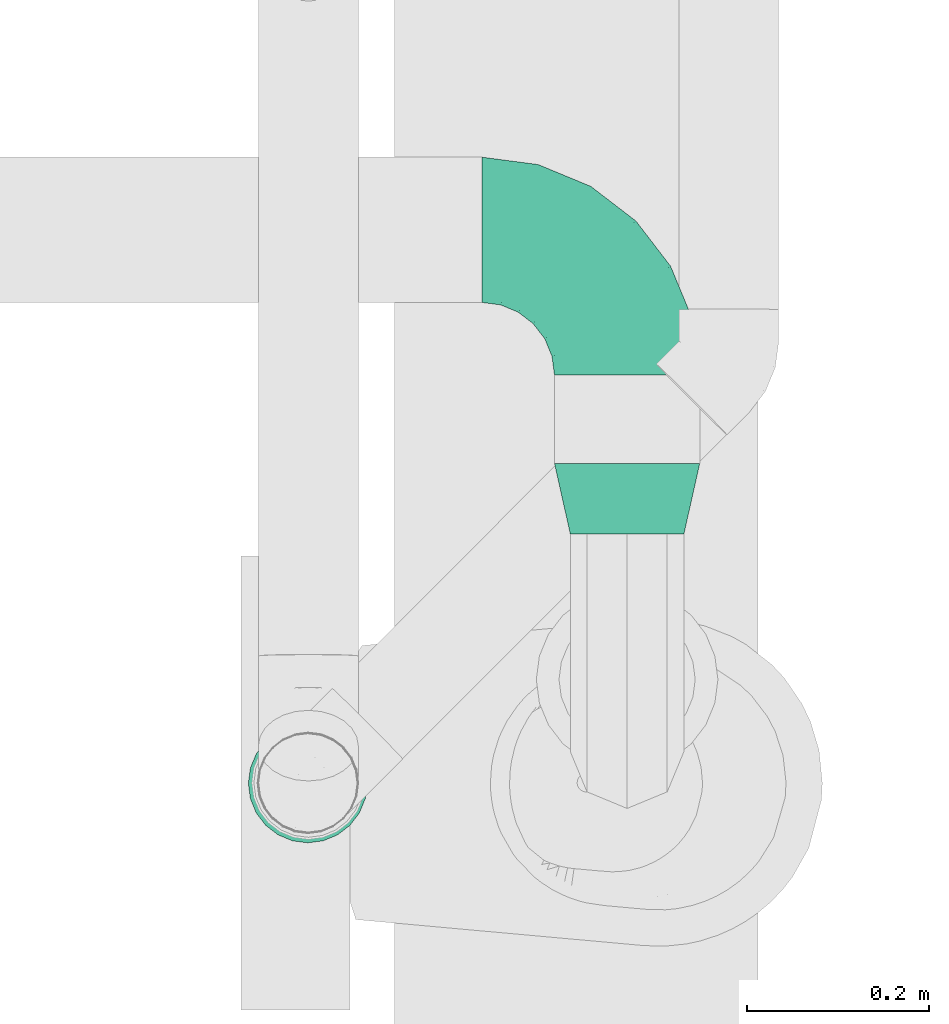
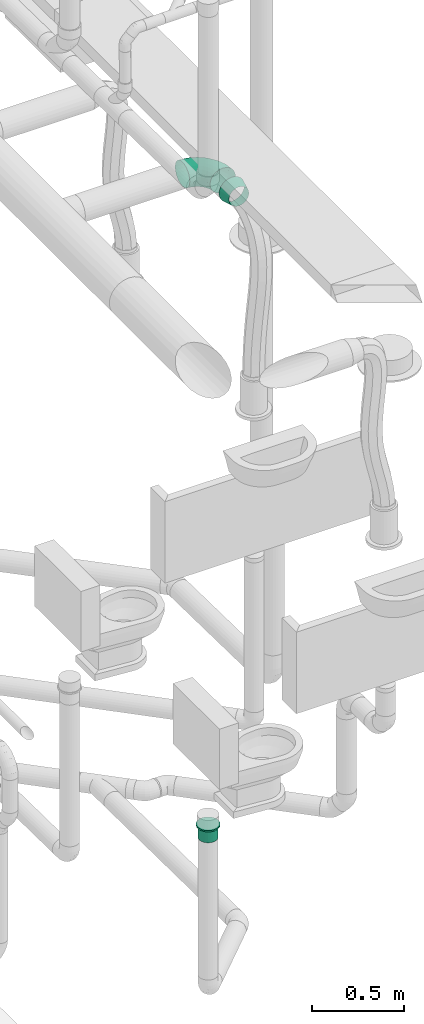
# One storey, part 121 of 374: 3 flow fittings.
"""IFC2X3 building model written with IfcOpenShell, lengths in metres."""

from ifc_helpers import new_model, si_unit, direction, origin, place, context, subcontext, project, spatial, open_shell, surface_model, source, transform, mapped, element, save


model = new_model("IFC2X3")

# Units and contexts
model_context = context("Model", 3, precision=1e-05, world=origin(), true_north=direction((-0.4480736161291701, 0.8939966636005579)))
body_context = subcontext(model_context, "Body", "Model", "MODEL_VIEW")
ifc_project = project(units=[si_unit("LENGTHUNIT", "METRE"), si_unit("AREAUNIT", "SQUARE_METRE"), si_unit("VOLUMEUNIT", "CUBIC_METRE"), si_unit("PLANEANGLEUNIT", "RADIAN"), si_unit("THERMODYNAMICTEMPERATUREUNIT", "KELVIN"), si_unit("MASSUNIT", "GRAM", prefix="KILO"), si_unit("TIMEUNIT", "SECOND")], contexts=[model_context])

# Site, building, storey
site_placement = place(None, origin())
site = spatial("IfcSite", under=ifc_project, at=site_placement, Name="Site 1", CompositionType="ELEMENT")
building_placement = place(site_placement, origin())
building = spatial("IfcBuilding", under=site, at=building_placement, Name="Undefined", CompositionType="ELEMENT")
storey_placement = place(building_placement, origin())
storey = spatial("IfcBuildingStorey", under=building, at=storey_placement, Name="Rez de chauss\x8ee", CompositionType="ELEMENT", Elevation=0.0)

# Flow fittings
shared_shape_1 = source(origin(), body_context, "Body", "SurfaceModel", [
    surface_model("IfcFaceBasedSurfaceModel", [(0.06265257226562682, -8.8817842e-16, 0.0), (0.062296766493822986, 0.02088115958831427, -7.105427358e-15), (0.0003558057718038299, 0.020881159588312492, 7.105427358e-15), (0.0, 0.0, 0.0), (-0.059474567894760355, 0.022956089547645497, -0.015896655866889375), (-0.06051773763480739, 0.002098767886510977, -0.01607928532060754), (-0.11311701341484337, 0.02696454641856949, -0.04660663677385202), (-0.11477645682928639, 0.006153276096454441, -0.04714207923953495), (-0.15691588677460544, 0.0326333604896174, -0.09003710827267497), (-0.15907851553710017, 0.01188721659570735, -0.09107150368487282), (-0.18788636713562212, 0.03957621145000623, -0.14322835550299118), (-0.1904048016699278, 0.01890983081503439, -0.14487384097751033), (-0.2039178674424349, 0.04731995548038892, -0.20255548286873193), (-0.20662048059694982, 0.026742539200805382, -0.20488255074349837), (0.061253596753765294, 0.04103889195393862, -0.0053597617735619), (0.0013989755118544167, 0.04103889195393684, -0.005359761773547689), (-0.05641614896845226, 0.04304393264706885, -0.02072097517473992), (-0.10825177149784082, 0.04691737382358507, -0.050396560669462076), (-0.15057538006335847, 0.05239524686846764, -0.09236417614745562), (-0.18050269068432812, 0.05910424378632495, -0.14376379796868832), (-0.19599420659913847, 0.06658715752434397, -0.20109262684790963), (0.05959415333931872, 0.05909948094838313, -0.01571402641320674), (0.003058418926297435, 0.05909948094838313, -0.01571402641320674), (-0.05155090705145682, 0.06099334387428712, -0.030223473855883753), (-0.10051228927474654, 0.06465200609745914, -0.058253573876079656), (-0.1404890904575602, 0.0698261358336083, -0.09789412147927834), (-0.16875695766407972, 0.0761631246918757, -0.14644367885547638), (-0.18338948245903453, 0.08323111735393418, -0.2005936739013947), (0.057431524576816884, 0.07383212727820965, -0.030357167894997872), (0.005221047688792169, 0.07383212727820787, -0.03035716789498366), (-0.0452104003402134, 0.07558110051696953, -0.04375657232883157), (-0.09042599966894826, 0.07895985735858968, -0.06964223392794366), (-0.12734438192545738, 0.08373814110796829, -0.10625008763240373), (-0.15344962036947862, 0.08959031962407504, -0.15108536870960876), (-0.16696268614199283, 0.0961175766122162, -0.20109262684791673), (0.054913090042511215, 0.0842328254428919, -0.048291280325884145), (0.007739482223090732, 0.08423282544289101, -0.04829128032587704), (-0.037826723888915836, 0.08581307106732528, -0.06039801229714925), (-0.07868026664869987, 0.08886587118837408, -0.08378642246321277), (-0.11203704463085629, 0.09318318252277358, -0.11686262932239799), (-0.13562384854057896, 0.09847078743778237, -0.1573725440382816), (-0.14783327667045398, 0.10436834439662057, -0.20255548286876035), (0.05221047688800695, 0.0895927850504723, -0.06829418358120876), (0.010442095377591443, 0.08959278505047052, -0.06829418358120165), (-0.029903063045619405, 0.09099196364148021, -0.07901370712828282), (-0.06607554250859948, 0.09369496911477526, -0.0997222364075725), (-0.0956102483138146, 0.0975175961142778, -0.12900851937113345), (-0.11649443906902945, 0.10219933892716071, -0.16487674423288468), (-0.12730489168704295, 0.1074211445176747, -0.2048825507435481), (0.04950786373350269, 0.08954673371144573, -0.08900271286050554), (0.013144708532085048, 0.08954673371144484, -0.08900271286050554), (-0.02197940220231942, 0.09076484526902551, -0.09833502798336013), (-0.05347081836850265, 0.09311805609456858, -0.11636367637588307), (-0.0791834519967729, 0.09644599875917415, -0.14186003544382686), (-0.09736502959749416, 0.10052187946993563, -0.17308657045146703), (-0.10677650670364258, 0.1050679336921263, -0.20791524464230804), (0.04698942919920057, 0.08409780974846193, -0.10900561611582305), (0.015663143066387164, 0.08409780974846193, -0.10900561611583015), (-0.014595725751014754, 0.08514719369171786, -0.11704525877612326), (-0.0417250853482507, 0.0871744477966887, -0.13257665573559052), (-0.06387611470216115, 0.09004141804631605, -0.15454136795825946), (-0.07953925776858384, 0.09355272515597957, -0.1814425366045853), (-0.08764709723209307, 0.09746907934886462, -0.21144689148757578), (0.04482680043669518, 0.0736173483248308, -0.12693972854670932), (0.017825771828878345, 0.0736173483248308, -0.12693972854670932), (-0.008255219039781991, 0.07452184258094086, -0.13386932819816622), (-0.03163879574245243, 0.0762691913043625, -0.14725628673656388), (-0.050731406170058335, 0.07874031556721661, -0.1661883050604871), (-0.06423192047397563, 0.08176681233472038, -0.18937519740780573), (-0.07122030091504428, 0.08514243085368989, -0.21523681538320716), (0.04316735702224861, 0.058819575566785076, -0.14158287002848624), (0.019485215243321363, 0.058819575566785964, -0.14158287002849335), (-0.0033899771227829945, 0.05961289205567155, -0.14766070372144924), (-0.02389931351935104, 0.06114546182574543, -0.15940217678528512), (-0.04064511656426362, 0.06331284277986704, -0.17600712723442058), (-0.052486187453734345, 0.06596733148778, -0.19634395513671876), (-0.05861557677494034, 0.06892802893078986, -0.2190267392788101), (0.04212418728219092, 0.040712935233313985, -0.15193713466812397), (0.020528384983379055, 0.040712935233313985, -0.15193713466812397), (-0.0003315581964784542, 0.041436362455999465, -0.15747952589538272), (-0.019034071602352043, 0.04283391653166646, -0.16818660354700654), (-0.03430460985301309, 0.04481035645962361, -0.1833286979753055), (-0.04510251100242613, 0.047230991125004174, -0.20187390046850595), (-0.05069191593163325, 0.04993085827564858, -0.22255838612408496), (0.04176838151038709, 0.02053136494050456, -0.15729689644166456), (0.020884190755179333, 0.02053136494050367, -0.15729689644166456), (0.0007116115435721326, 0.021230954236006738, -0.16265665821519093), (-0.017374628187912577, 0.022582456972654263, -0.17301092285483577), (-0.03214198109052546, 0.024493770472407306, -0.1876540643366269), (-0.042584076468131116, 0.026834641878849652, -0.20558817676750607), (-0.04798930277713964, 0.02944554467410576, -0.22559108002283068), (0.04212418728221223, -0.000349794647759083, -0.15729689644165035), (0.020528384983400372, -0.000349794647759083, -0.15729689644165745), (-0.0003315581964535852, 0.00037363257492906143, -0.1628392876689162), (-0.019034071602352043, 0.0017711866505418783, -0.17354636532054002), (-0.03430460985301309, 0.0037476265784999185, -0.18868845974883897), (-0.04510251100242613, 0.00616826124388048, -0.20723366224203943), (-0.05069191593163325, 0.008868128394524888, -0.22791814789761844), (0.04316735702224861, -0.020507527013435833, -0.15193713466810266), (0.019485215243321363, -0.020507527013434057, -0.15193713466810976), (-0.0033899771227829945, -0.019714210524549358, -0.15801496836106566), (-0.02389931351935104, -0.01818164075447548, -0.16975644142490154), (-0.04064511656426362, -0.01601425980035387, -0.186361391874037), (-0.052486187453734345, -0.013359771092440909, -0.20669821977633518), (-0.05861557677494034, -0.010399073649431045, -0.22938100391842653), (0.04482680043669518, -0.03856811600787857, -0.1415828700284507), (0.017825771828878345, -0.03856811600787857, -0.1415828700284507), (-0.008255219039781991, -0.03766362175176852, -0.1485124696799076), (-0.03163879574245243, -0.03591627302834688, -0.16189942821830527), (-0.050731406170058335, -0.03344514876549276, -0.1808314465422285), (-0.06423192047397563, -0.030418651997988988, -0.20401833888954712), (-0.07122030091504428, -0.027043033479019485, -0.22987995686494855), (0.04698942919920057, -0.05330076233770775, -0.12693972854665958), (0.015663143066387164, -0.05330076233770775, -0.12693972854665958), (-0.014595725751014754, -0.05225137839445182, -0.1349793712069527), (-0.0417250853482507, -0.05022412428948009, -0.15051076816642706), (-0.06387611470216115, -0.047357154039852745, -0.172475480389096), (-0.07953925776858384, -0.043845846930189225, -0.19937664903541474), (-0.08764709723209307, -0.03992949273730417, -0.2293810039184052), (0.04950786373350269, -0.06370146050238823, -0.10900561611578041), (0.013144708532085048, -0.06370146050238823, -0.10900561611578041), (-0.02197940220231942, -0.06248334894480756, -0.11833793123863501), (-0.05347081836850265, -0.06013013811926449, -0.13636657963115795), (-0.0791834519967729, -0.05680219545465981, -0.16186293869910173), (-0.09736502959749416, -0.05272631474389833, -0.1930894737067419), (-0.10677650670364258, -0.04818026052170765, -0.2279181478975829), (0.05221047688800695, -0.06906142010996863, -0.08900271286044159), (0.010442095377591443, -0.06906142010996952, -0.08900271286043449), (-0.029903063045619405, -0.06766224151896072, -0.09972223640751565), (-0.06607554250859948, -0.06495923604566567, -0.12043076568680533), (-0.0956102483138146, -0.06113660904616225, -0.14971704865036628), (-0.11649443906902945, -0.05645486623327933, -0.1855852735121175), (-0.12730489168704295, -0.05123306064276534, -0.22559108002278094), (0.054913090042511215, -0.06901536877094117, -0.06829418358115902), (0.007739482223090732, -0.06901536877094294, -0.06829418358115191), (-0.037826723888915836, -0.06743512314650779, -0.08040091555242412), (-0.07868026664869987, -0.06438232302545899, -0.10378932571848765), (-0.11203704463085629, -0.06006501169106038, -0.13686553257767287), (-0.13562384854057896, -0.0547774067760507, -0.17737544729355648), (-0.14783327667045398, -0.04887984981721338, -0.22255838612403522), (0.057431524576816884, -0.06356644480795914, -0.0482912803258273), (0.005221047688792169, -0.06356644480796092, -0.04829128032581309), (-0.0452104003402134, -0.061817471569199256, -0.0616906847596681), (-0.09042599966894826, -0.05843871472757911, -0.0875763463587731), (-0.12734438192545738, -0.05366043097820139, -0.12418420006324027), (-0.15344962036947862, -0.04780825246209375, -0.1690194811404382), (-0.16696268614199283, -0.041280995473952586, -0.21902673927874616), (0.05959415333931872, -0.05308598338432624, -0.030357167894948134), (0.003058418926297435, -0.05308598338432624, -0.030357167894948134), (-0.05155090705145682, -0.05119212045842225, -0.04486661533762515), (-0.10051228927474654, -0.04753345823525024, -0.07289671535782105), (-0.1404890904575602, -0.04235932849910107, -0.11253726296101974), (-0.16875695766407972, -0.03602233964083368, -0.16108682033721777), (-0.18338948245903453, -0.02895434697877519, -0.2152368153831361), (0.061253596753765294, -0.03828821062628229, -0.015714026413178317), (0.0013989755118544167, -0.03828821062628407, -0.015714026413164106), (-0.05641614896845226, -0.03628316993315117, -0.031075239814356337), (-0.10825177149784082, -0.03240972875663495, -0.06075082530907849), (-0.15057538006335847, -0.026931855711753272, -0.10271844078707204), (-0.18050269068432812, -0.02022285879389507, -0.15411806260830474), (-0.19599420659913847, -0.012739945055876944, -0.21144689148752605), (0.062296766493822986, -0.020181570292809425, -0.005359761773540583), (0.0003558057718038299, -0.020181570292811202, -0.0053597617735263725), (-0.059474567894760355, -0.018106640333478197, -0.021256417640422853), (-0.11311701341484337, -0.014098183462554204, -0.051966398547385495), (-0.15691588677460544, -0.00842936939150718, -0.09539687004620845), (-0.18788636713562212, -0.0014865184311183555, -0.14858811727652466), (-0.2039178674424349, 0.006257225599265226, -0.2079152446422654)], [open_shell([[[0, 1, 2, 3]], [[3, 2, 4, 5]], [[5, 4, 6, 7]], [[7, 6, 8, 9]], [[9, 8, 10, 11]], [[11, 10, 12, 13]], [[1, 14, 15, 2]], [[2, 15, 16, 4]], [[4, 16, 17, 6]], [[6, 17, 18, 8]], [[8, 18, 19, 10]], [[10, 19, 20, 12]], [[14, 21, 22, 15]], [[15, 22, 23, 16]], [[16, 23, 24, 17]], [[17, 24, 25, 18]], [[18, 25, 26, 19]], [[19, 26, 27, 20]], [[21, 28, 29, 22]], [[22, 29, 30, 23]], [[23, 30, 31, 24]], [[24, 31, 32, 25]], [[25, 32, 33, 26]], [[26, 33, 34, 27]], [[28, 35, 36, 29]], [[29, 36, 37, 30]], [[30, 37, 38, 31]], [[31, 38, 39, 32]], [[32, 39, 40, 33]], [[33, 40, 41, 34]], [[35, 42, 43, 36]], [[36, 43, 44, 37]], [[37, 44, 45, 38]], [[38, 45, 46, 39]], [[39, 46, 47, 40]], [[40, 47, 48, 41]], [[42, 49, 50, 43]], [[43, 50, 51, 44]], [[44, 51, 52, 45]], [[45, 52, 53, 46]], [[46, 53, 54, 47]], [[47, 54, 55, 48]], [[49, 56, 57, 50]], [[50, 57, 58, 51]], [[51, 58, 59, 52]], [[52, 59, 60, 53]], [[53, 60, 61, 54]], [[54, 61, 62, 55]], [[56, 63, 64, 57]], [[57, 64, 65, 58]], [[58, 65, 66, 59]], [[59, 66, 67, 60]], [[60, 67, 68, 61]], [[61, 68, 69, 62]], [[63, 70, 71, 64]], [[64, 71, 72, 65]], [[65, 72, 73, 66]], [[66, 73, 74, 67]], [[67, 74, 75, 68]], [[68, 75, 76, 69]], [[70, 77, 78, 71]], [[71, 78, 79, 72]], [[72, 79, 80, 73]], [[73, 80, 81, 74]], [[74, 81, 82, 75]], [[75, 82, 83, 76]], [[77, 84, 85, 78]], [[78, 85, 86, 79]], [[79, 86, 87, 80]], [[80, 87, 88, 81]], [[81, 88, 89, 82]], [[82, 89, 90, 83]], [[84, 91, 92, 85]], [[85, 92, 93, 86]], [[86, 93, 94, 87]], [[87, 94, 95, 88]], [[88, 95, 96, 89]], [[89, 96, 97, 90]], [[91, 98, 99, 92]], [[92, 99, 100, 93]], [[93, 100, 101, 94]], [[94, 101, 102, 95]], [[95, 102, 103, 96]], [[96, 103, 104, 97]], [[98, 105, 106, 99]], [[99, 106, 107, 100]], [[100, 107, 108, 101]], [[101, 108, 109, 102]], [[102, 109, 110, 103]], [[103, 110, 111, 104]], [[105, 112, 113, 106]], [[106, 113, 114, 107]], [[107, 114, 115, 108]], [[108, 115, 116, 109]], [[109, 116, 117, 110]], [[110, 117, 118, 111]], [[112, 119, 120, 113]], [[113, 120, 121, 114]], [[114, 121, 122, 115]], [[115, 122, 123, 116]], [[116, 123, 124, 117]], [[117, 124, 125, 118]], [[119, 126, 127, 120]], [[120, 127, 128, 121]], [[121, 128, 129, 122]], [[122, 129, 130, 123]], [[123, 130, 131, 124]], [[124, 131, 132, 125]], [[126, 133, 134, 127]], [[127, 134, 135, 128]], [[128, 135, 136, 129]], [[129, 136, 137, 130]], [[130, 137, 138, 131]], [[131, 138, 139, 132]], [[133, 140, 141, 134]], [[134, 141, 142, 135]], [[135, 142, 143, 136]], [[136, 143, 144, 137]], [[137, 144, 145, 138]], [[138, 145, 146, 139]], [[140, 147, 148, 141]], [[141, 148, 149, 142]], [[142, 149, 150, 143]], [[143, 150, 151, 144]], [[144, 151, 152, 145]], [[145, 152, 153, 146]], [[147, 154, 155, 148]], [[148, 155, 156, 149]], [[149, 156, 157, 150]], [[150, 157, 158, 151]], [[151, 158, 159, 152]], [[152, 159, 160, 153]], [[154, 161, 162, 155]], [[155, 162, 163, 156]], [[156, 163, 164, 157]], [[157, 164, 165, 158]], [[158, 165, 166, 159]], [[159, 166, 167, 160]], [[161, 0, 3, 162]], [[162, 3, 5, 163]], [[163, 5, 7, 164]], [[164, 7, 9, 165]], [[165, 9, 11, 166]], [[166, 11, 13, 167]]])]),
])
flow_fitting_1_placement = place(storey_placement, origin())
element("IfcFlowFitting", 1, at=flow_fitting_1_placement, inside=storey, Name="Coude", ObjectType="Coude", context=body_context, shape_type="MappedRepresentation", body=[
    mapped(shared_shape_1, transform((57.327116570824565, 11.991822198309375, 3.8000000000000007), x_axis=(-0.9914448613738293, 0.13052619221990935, 0.0), y_axis=(-0.016893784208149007, -0.12832103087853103, 0.9915887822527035), z_axis=(0.12942830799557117, 0.9831056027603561, 0.12942830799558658))),
])
shared_shape_2 = source(origin(), body_context, "Body", "SurfaceModel", [
    surface_model("IfcFaceBasedSurfaceModel", [(0.0, 0.014357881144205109, -3.552713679e-15), (0.0, 0.0, 0.0), (0.07919999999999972, 4.4408921e-16, 3.552713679e-15), (0.07919999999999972, 0.014357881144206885, 3.552713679e-15), (0.0, -0.01386864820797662, -0.0037160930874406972), (0.07919999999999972, -0.013868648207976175, -0.0037160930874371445), (0.0, -0.026302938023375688, -0.010895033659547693), (0.07919999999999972, -0.026302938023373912, -0.010895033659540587), (0.0, -0.03645549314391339, -0.021047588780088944), (0.07919999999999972, -0.03645549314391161, -0.02104758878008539), (0.0, -0.04363443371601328, -0.033481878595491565), (0.07919999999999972, -0.043634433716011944, -0.03348187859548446), (0.0, -0.04735052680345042, -0.04735052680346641), (0.07919999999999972, -0.04735052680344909, -0.047350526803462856), (0.0, -0.04735052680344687, -0.06170840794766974), (0.07919999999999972, -0.047350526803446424, -0.061708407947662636), (0.0, -0.04363443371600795, -0.07557705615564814), (0.07919999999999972, -0.043634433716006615, -0.07557705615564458), (0.0, -0.03645549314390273, -0.08801134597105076), (0.07919999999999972, -0.036455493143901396, -0.08801134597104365), (0.0, -0.026302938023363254, -0.0981639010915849), (0.07919999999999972, -0.026302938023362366, -0.09816390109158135), (0.0, -0.013868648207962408, -0.1053428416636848), (0.07919999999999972, -0.01386864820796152, -0.10534284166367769), (0.0, 1.5987211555e-14, -0.10905893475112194), (0.07919999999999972, 1.6875389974e-14, -0.10905893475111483), (0.0, 0.014357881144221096, -0.10905893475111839), (0.07919999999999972, 0.014357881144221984, -0.10905893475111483), (0.0, 0.028226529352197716, -0.10534284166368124), (0.07919999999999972, 0.028226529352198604, -0.10534284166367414), (0.0, 0.040660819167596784, -0.0981639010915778), (0.07919999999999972, 0.04066081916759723, -0.0981639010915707), (0.0, 0.05081337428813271, -0.08801134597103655), (0.07919999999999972, 0.05081337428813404, -0.08801134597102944), (0.0, 0.05799231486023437, -0.07557705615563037), (0.07919999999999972, 0.05799231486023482, -0.07557705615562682), (0.0, 0.06170840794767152, -0.06170840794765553), (0.07919999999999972, 0.06170840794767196, -0.06170840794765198), (0.0, 0.061708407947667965, -0.0473505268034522), (0.07919999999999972, 0.0617084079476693, -0.047350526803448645), (0.0, 0.05799231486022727, -0.033481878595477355), (0.07919999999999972, 0.057992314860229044, -0.03348187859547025), (0.0, 0.050813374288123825, -0.021047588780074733), (0.07919999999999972, 0.05081337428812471, -0.021047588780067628), (0.0, 0.04066081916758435, -0.010895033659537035), (0.07919999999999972, 0.040660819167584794, -0.010895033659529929), (0.0, 0.028226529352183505, -0.0037160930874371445), (0.07919999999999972, 0.02822652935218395, -0.003716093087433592), (0.07919999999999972, 0.01572840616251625, 0.010410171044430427), (0.07919999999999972, -0.0013705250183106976, 0.010410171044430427), (0.08800000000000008, -0.0013705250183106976, 0.010410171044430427), (0.08800000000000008, 0.01572840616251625, 0.010410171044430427), (0.07919999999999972, -0.017886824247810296, 0.005984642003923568), (0.08800000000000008, -0.017886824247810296, 0.005984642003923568), (0.07919999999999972, -0.032694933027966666, -0.0025648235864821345), (0.08800000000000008, -0.032694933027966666, -0.0025648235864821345), (0.07919999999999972, -0.04478570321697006, -0.01465559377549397), (0.08800000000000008, -0.04478570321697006, -0.01465559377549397), (0.07919999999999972, -0.05333516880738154, -0.02946370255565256), (0.08800000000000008, -0.05333516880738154, -0.02946370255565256), (0.07919999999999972, -0.05776069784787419, -0.04598000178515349), (0.08800000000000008, -0.05776069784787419, -0.04598000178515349), (0.07919999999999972, -0.05776069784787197, -0.0630789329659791), (0.08800000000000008, -0.05776069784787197, -0.0630789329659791), (0.07919999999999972, -0.05333516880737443, -0.07959523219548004), (0.08800000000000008, -0.05333516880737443, -0.07959523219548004), (0.07919999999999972, -0.04478570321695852, -0.09440334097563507), (0.08800000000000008, -0.04478570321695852, -0.09440334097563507), (0.07919999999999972, -0.03269493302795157, -0.1064941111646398), (0.08800000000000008, -0.03269493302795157, -0.1064941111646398), (0.07919999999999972, -0.017886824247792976, -0.11504357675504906), (0.08800000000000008, -0.017886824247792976, -0.11504357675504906), (0.07919999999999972, -0.0013705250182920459, -0.11946910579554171), (0.08800000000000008, -0.0013705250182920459, -0.11946910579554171), (0.07919999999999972, 0.01572840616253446, -0.11946910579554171), (0.08800000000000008, 0.01572840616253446, -0.11946910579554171), (0.07919999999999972, 0.03224470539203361, -0.11504357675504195), (0.08800000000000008, 0.03224470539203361, -0.11504357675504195), (0.07919999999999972, 0.04705281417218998, -0.10649411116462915), (0.08800000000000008, 0.04705281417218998, -0.10649411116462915), (0.07919999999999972, 0.05914358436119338, -0.09440334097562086), (0.08800000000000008, 0.05914358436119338, -0.09440334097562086), (0.07919999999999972, 0.06769304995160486, -0.07959523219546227), (0.08800000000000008, 0.06769304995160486, -0.07959523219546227), (0.07919999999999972, 0.07211857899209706, -0.06307893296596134), (0.08800000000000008, 0.07211857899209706, -0.06307893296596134), (0.07919999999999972, 0.07211857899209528, -0.04598000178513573), (0.08800000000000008, 0.07211857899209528, -0.04598000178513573), (0.07919999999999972, 0.06769304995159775, -0.029463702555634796), (0.08800000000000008, 0.06769304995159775, -0.029463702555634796), (0.07919999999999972, 0.059143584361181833, -0.014655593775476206), (0.08800000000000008, 0.059143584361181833, -0.014655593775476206), (0.07919999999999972, 0.047052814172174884, -0.0025648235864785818), (0.08800000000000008, 0.047052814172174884, -0.0025648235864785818), (0.07919999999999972, 0.03224470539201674, 0.005984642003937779), (0.08800000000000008, 0.03224470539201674, 0.005984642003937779), (0.07919999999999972, 0.00717894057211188, -0.05452946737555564), (0.08800000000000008, 0.00717894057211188, -0.05452946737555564)], [open_shell([[[0, 1, 2, 3]], [[1, 4, 5, 2]], [[4, 6, 7, 5]], [[6, 8, 9, 7]], [[8, 10, 11, 9]], [[10, 12, 13, 11]], [[12, 14, 15, 13]], [[14, 16, 17, 15]], [[16, 18, 19, 17]], [[18, 20, 21, 19]], [[20, 22, 23, 21]], [[22, 24, 25, 23]], [[24, 26, 27, 25]], [[26, 28, 29, 27]], [[28, 30, 31, 29]], [[30, 32, 33, 31]], [[32, 34, 35, 33]], [[34, 36, 37, 35]], [[36, 38, 39, 37]], [[38, 40, 41, 39]], [[40, 42, 43, 41]], [[42, 44, 45, 43]], [[44, 46, 47, 45]], [[46, 0, 3, 47]], [[48, 49, 50, 51]], [[49, 52, 53, 50]], [[52, 54, 55, 53]], [[54, 56, 57, 55]], [[56, 58, 59, 57]], [[58, 60, 61, 59]], [[60, 62, 63, 61]], [[62, 64, 65, 63]], [[64, 66, 67, 65]], [[66, 68, 69, 67]], [[68, 70, 71, 69]], [[70, 72, 73, 71]], [[72, 74, 75, 73]], [[74, 76, 77, 75]], [[76, 78, 79, 77]], [[78, 80, 81, 79]], [[80, 82, 83, 81]], [[82, 84, 85, 83]], [[84, 86, 87, 85]], [[86, 88, 89, 87]], [[88, 90, 91, 89]], [[90, 92, 93, 91]], [[92, 94, 95, 93]], [[94, 48, 51, 95]], [[96, 49, 48]], [[96, 52, 49]], [[96, 54, 52]], [[96, 56, 54]], [[96, 58, 56]], [[96, 60, 58]], [[96, 62, 60]], [[96, 64, 62]], [[96, 66, 64]], [[96, 68, 66]], [[96, 70, 68]], [[96, 72, 70]], [[96, 74, 72]], [[96, 76, 74]], [[96, 78, 76]], [[96, 80, 78]], [[96, 82, 80]], [[96, 84, 82]], [[96, 86, 84]], [[96, 88, 86]], [[96, 90, 88]], [[96, 92, 90]], [[96, 94, 92]], [[96, 48, 94]], [[97, 95, 51]], [[97, 93, 95]], [[97, 91, 93]], [[97, 89, 91]], [[97, 87, 89]], [[97, 85, 87]], [[97, 83, 85]], [[97, 81, 83]], [[97, 79, 81]], [[97, 77, 79]], [[97, 75, 77]], [[97, 73, 75]], [[97, 71, 73]], [[97, 69, 71]], [[97, 67, 69]], [[97, 65, 67]], [[97, 63, 65]], [[97, 61, 63]], [[97, 59, 61]], [[97, 57, 59]], [[97, 55, 57]], [[97, 53, 55]], [[97, 50, 53]], [[97, 51, 50]]])]),
])
flow_fitting_2_placement = place(storey_placement, origin())
element("IfcFlowFitting", 2, at=flow_fitting_2_placement, inside=storey, Name="PE-HD manchon à emboiter", ObjectType="PE-HD manchon à emboiter", context=body_context, shape_type="MappedRepresentation", body=[
    mapped(shared_shape_2, transform((57.025760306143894, 11.33789170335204, -0.1505), x_axis=(0.0, 0.0, 1.0), y_axis=(0.6087614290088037, 0.7933533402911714, 0.0), z_axis=(-0.7933533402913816, 0.6087614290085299, 0.0))),
])
shared_shape_3 = source(origin(), body_context, "Body", "SurfaceModel", [
    surface_model("IfcFaceBasedSurfaceModel", [(0.07993903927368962, 0.0, 0.0), (0.08040525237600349, 0.016309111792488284, 0.0), (0.0005967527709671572, 0.020875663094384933, 0.0), (0.0, 0.0, 0.0), (0.08177212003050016, 0.03203630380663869, -0.004122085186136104), (0.002346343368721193, 0.041006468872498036, -0.005276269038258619), (0.08394649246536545, 0.04610979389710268, -0.01208534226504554), (0.005129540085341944, 0.05902053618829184, -0.015469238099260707), (0.08678018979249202, 0.057570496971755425, -0.02334708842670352), (0.008756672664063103, 0.07369023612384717, -0.029884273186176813), (0.09008010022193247, 0.065637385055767, -0.03713985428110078), (0.012980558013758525, 0.08401585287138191, -0.04753901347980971), (0.09362134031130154, 0.06976071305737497, -0.05252368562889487), (0.017513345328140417, 0.08929371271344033, -0.06723031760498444), (0.0971625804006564, 0.06965948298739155, -0.06845019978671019), (0.022046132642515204, 0.08916413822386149, -0.08761625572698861), (0.10046249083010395, 0.06534059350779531, -0.08383403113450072), (0.026270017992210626, 0.08363595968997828, -0.10730755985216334), (0.10329618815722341, 0.05709836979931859, -0.09762679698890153), (0.029897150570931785, 0.07308591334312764, -0.12496230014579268), (0.10547056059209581, 0.04549450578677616, -0.10888854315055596), (0.032680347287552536, 0.058232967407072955, -0.13937733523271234), (0.10683742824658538, 0.031319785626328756, -0.1168518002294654), (0.03442993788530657, 0.040089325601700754, -0.14957030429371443), (0.10730364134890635, 0.015540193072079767, -0.12097388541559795), (0.035026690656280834, 0.019891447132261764, -0.1548465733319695), (0.10683742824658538, -0.0007689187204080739, -0.1209738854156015), (0.03442993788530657, -0.0009842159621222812, -0.15484657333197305), (0.10547056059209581, -0.016496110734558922, -0.11685180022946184), (0.03268034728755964, -0.02111502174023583, -0.14957030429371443), (0.10329618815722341, -0.030569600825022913, -0.10888854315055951), (0.029897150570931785, -0.03912908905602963, -0.13937733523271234), (0.10046249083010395, -0.042030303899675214, -0.09762679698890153), (0.02627001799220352, -0.05379878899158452, -0.12496230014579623), (0.0971625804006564, -0.05009719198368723, -0.08383403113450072), (0.022046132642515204, -0.0641244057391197, -0.10730755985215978), (0.09362134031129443, -0.0542205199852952, -0.06845019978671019), (0.017513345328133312, -0.06940226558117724, -0.08761625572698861), (0.09008010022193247, -0.054119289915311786, -0.05252368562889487), (0.01298055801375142, -0.06927269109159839, -0.06723031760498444), (0.08678018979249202, -0.04980040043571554, -0.037139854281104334), (0.008756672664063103, -0.06374451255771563, -0.04753901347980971), (0.08394649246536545, -0.04155817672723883, -0.02334708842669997), (0.005129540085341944, -0.05319446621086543, -0.029884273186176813), (0.08177212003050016, -0.029954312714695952, -0.012085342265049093), (0.0023463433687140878, -0.0383415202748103, -0.015469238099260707), (0.08040525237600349, -0.01577959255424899, -0.004122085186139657), (0.0005967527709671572, -0.020197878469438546, -0.005276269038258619)], [open_shell([[[0, 1, 2, 3]], [[1, 4, 5, 2]], [[4, 6, 7, 5]], [[6, 8, 9, 7]], [[8, 10, 11, 9]], [[10, 12, 13, 11]], [[12, 14, 15, 13]], [[14, 16, 17, 15]], [[16, 18, 19, 17]], [[18, 20, 21, 19]], [[20, 22, 23, 21]], [[22, 24, 25, 23]], [[24, 26, 27, 25]], [[26, 28, 29, 27]], [[28, 30, 31, 29]], [[30, 32, 33, 31]], [[32, 34, 35, 33]], [[34, 36, 37, 35]], [[36, 38, 39, 37]], [[38, 40, 41, 39]], [[40, 42, 43, 41]], [[42, 44, 45, 43]], [[44, 46, 47, 45]], [[46, 0, 3, 47]]])]),
])
flow_fitting_3_placement = place(storey_placement, origin())
element("IfcFlowFitting", 3, at=flow_fitting_3_placement, inside=storey, Name="Réduction conique", ObjectType="Réduction conique", context=body_context, shape_type="MappedRepresentation", body=[
    mapped(shared_shape_3, transform((57.50499999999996, 11.662733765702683, 3.8000000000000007), x_axis=(-0.21891681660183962, -0.9757435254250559, 0.0), y_axis=(-0.12432154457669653, 0.02789265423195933, -0.9918498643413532), z_axis=(0.9677910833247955, -0.21713261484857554, -0.1274121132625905))),
])

save(model, "model.ifc")
